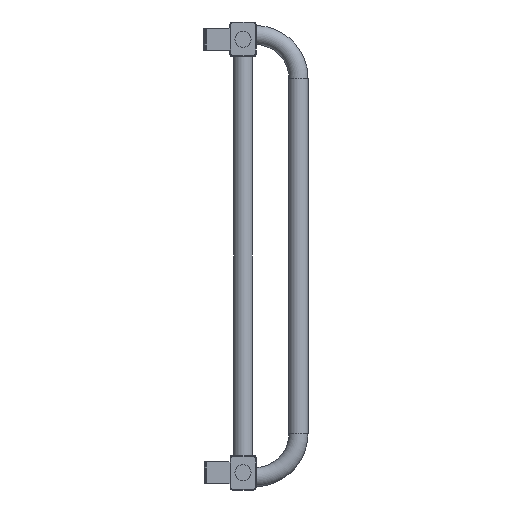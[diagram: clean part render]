
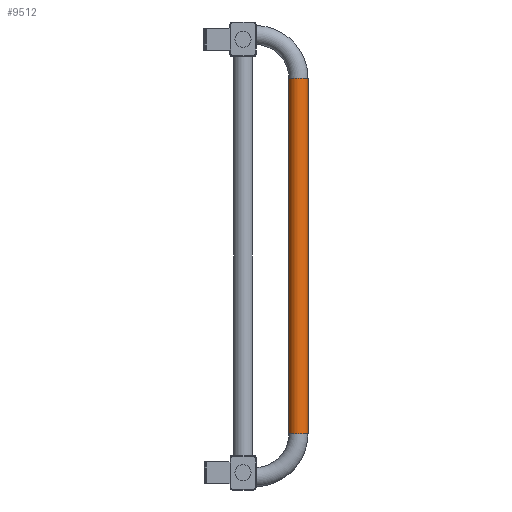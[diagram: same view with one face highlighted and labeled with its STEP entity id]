
A CAD part, left-side view. The second image highlights one B-rep face of the part: STEP entity #9512.
In plain terms, the highlighted cylindrical face has radius 11 mm (diameter 22 mm), a full revolution.
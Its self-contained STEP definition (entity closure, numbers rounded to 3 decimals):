
#9481=CARTESIAN_POINT('',(30.,-75.,64.99));
#9482=VERTEX_POINT('',#9481);
#9483=CARTESIAN_POINT('',(30.,-64.,64.99));
#9484=DIRECTION('',(0.0,0.0,1.0));
#9485=DIRECTION('',(0.0,1.0,0.0));
#9486=AXIS2_PLACEMENT_3D('',#9483,#9484,#9485);
#9487=CIRCLE('',#9486,11.0);
#9488=EDGE_CURVE('',#9482,#9482,#9487,.T.);
#9493=CARTESIAN_POINT('',(30.,-64.,475.01));
#9494=DIRECTION('',(0.,0.,-1.0));
#9495=DIRECTION('',(0.0,1.0,0.0));
#9496=AXIS2_PLACEMENT_3D('',#9493,#9494,#9495);
#9497=CYLINDRICAL_SURFACE('',#9496,11.0);
#9498=ORIENTED_EDGE('',*,*,#9488,.T.);
#9499=EDGE_LOOP('',(#9498));
#9500=FACE_OUTER_BOUND('',#9499,.T.);
#9501=CARTESIAN_POINT('',(30.,-75.,475.01));
#9502=VERTEX_POINT('',#9501);
#9503=CARTESIAN_POINT('',(30.,-64.,475.01));
#9504=DIRECTION('',(0.0,0.0,1.0));
#9505=DIRECTION('',(0.0,1.0,0.0));
#9506=AXIS2_PLACEMENT_3D('',#9503,#9504,#9505);
#9507=CIRCLE('',#9506,11.0);
#9508=EDGE_CURVE('',#9502,#9502,#9507,.T.);
#9509=ORIENTED_EDGE('',*,*,#9508,.F.);
#9510=EDGE_LOOP('',(#9509));
#9511=FACE_BOUND('',#9510,.T.);
#9512=ADVANCED_FACE('',(#9500,#9511),#9497,.T.);
